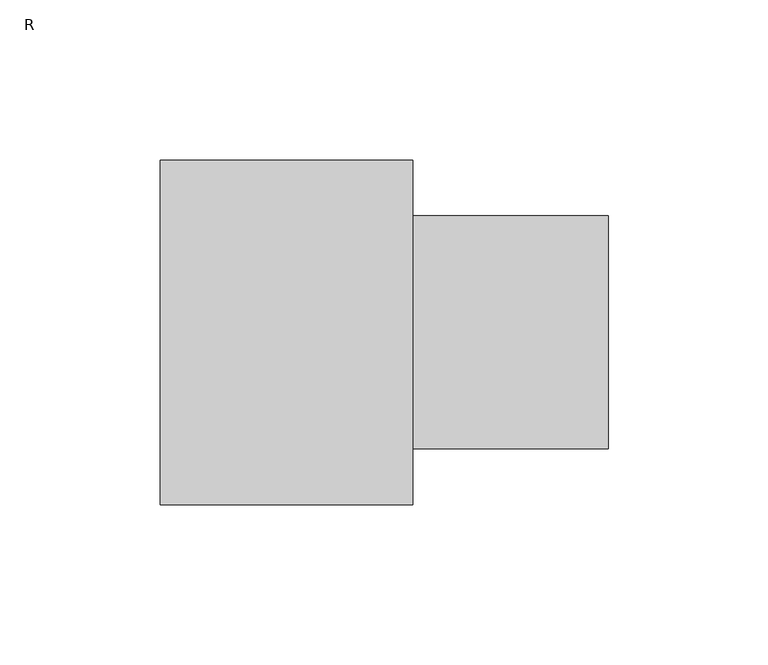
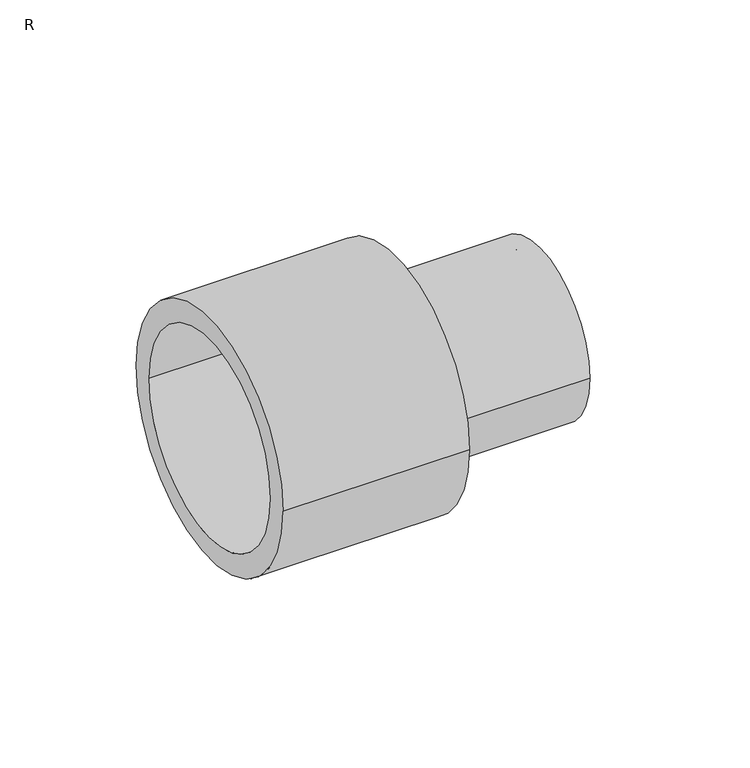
"""IFC4 building model written with IfcOpenShell, lengths in millimetres: pipe fitting geometry, FUSAPEX reducer for T-Piece : R."""

from ifc_helpers import new_model, si_unit, frame, origin, place, context, project, spatial, polyline, circle_curve, source, transform, mapped, element, save
from ifc_brep_helpers import plane_surface, cylinder_surface, revolved_surface, advanced_brep


def r_cca8e6ca(model_context):
    return source(origin(), model_context, "Body", "AdvancedBrep", [
        advanced_brep(
        [(-79.0, 44.4, 0.0), (-79.0, -44.4, 0.0), (-6.0, -44.4, 0.0), (-6.0, 44.4, 0.0), (0.0, 53.85, 0.0), (0.0, -53.85, 0.0), (-79.0, -53.85, 0.0), (-79.0, 53.85, 0.0), (61.0, 36.4, 0.0), (61.0, -36.4, 0.0), (0.0, -36.4, 0.0), (0.0, 36.4, 0.0), (-6.0, 30.25, 0.0), (-6.0, -30.25, 0.0), (61.0, -30.25, 0.0), (61.0, 30.25, 0.0)],
        [
            (0, 1, circle_curve(frame((-79.0, 0.0, 0.0), z_axis=(-1.0, 0.0, 0.0), x_axis=(0.0, -1.0, 0.0)), 44.4)),
            (1, 2),
            (2, 3, circle_curve(frame((-6.0, 0.0, 0.0), z_axis=(1.0, 0.0, 0.0), x_axis=(0.0, -1.0, 0.0)), 44.4)),
            (3, 0),
            (4, 5, circle_curve(frame((0.0, 0.0, 0.0), z_axis=(-1.0, 0.0, 0.0), x_axis=(0.0, -1.0, 0.0)), 53.85)),
            (5, 6),
            (6, 7, circle_curve(frame((-79.0, 0.0, 0.0), z_axis=(1.0, 0.0, 0.0), x_axis=(0.0, -1.0, 0.0)), 53.85)),
            (7, 4),
            (8, 9, circle_curve(frame((61.0, 0.0, 0.0), z_axis=(-1.0, 0.0, 0.0), x_axis=(0.0, -1.0, 0.0)), 36.4)),
            (9, 10),
            (10, 11, circle_curve(frame((0.0, 0.0, 0.0), z_axis=(1.0, 0.0, 0.0), x_axis=(0.0, -1.0, 0.0)), 36.4)),
            (11, 8),
            (12, 13, circle_curve(frame((-6.0, 0.0, 0.0), z_axis=(-1.0, 0.0, 0.0), x_axis=(0.0, -1.0, 0.0)), 30.25)),
            (13, 14),
            (14, 15, circle_curve(frame((61.0, 0.0, 0.0), z_axis=(1.0, 0.0, 0.0), x_axis=(0.0, -1.0, 0.0)), 30.25)),
            (15, 12),
            (1, 0, circle_curve(frame((-79.0, 0.0, 0.0), z_axis=(-1.0, 0.0, 0.0), x_axis=(0.0, 1.0, 0.0)), 44.4)),
            (3, 2, circle_curve(frame((-6.0, 0.0, 0.0), z_axis=(1.0, 0.0, 0.0), x_axis=(0.0, 1.0, 0.0)), 44.4)),
            (6, 7, circle_curve(frame((-79.0, 0.0, 0.0), z_axis=(-1.0, 0.0, 0.0), x_axis=(0.0, 1.0, 0.0)), 53.85)),
            (5, 4, circle_curve(frame((0.0, 0.0, 0.0), z_axis=(-1.0, 0.0, 0.0), x_axis=(0.0, 1.0, 0.0)), 53.85)),
            (10, 11, circle_curve(frame((0.0, 0.0, 0.0), z_axis=(-1.0, 0.0, 0.0), x_axis=(0.0, 1.0, 0.0)), 36.4)),
            (9, 8, circle_curve(frame((61.0, 0.0, 0.0), z_axis=(-1.0, 0.0, 0.0), x_axis=(0.0, 1.0, 0.0)), 36.4)),
            (14, 15, circle_curve(frame((61.0, 0.0, 0.0), z_axis=(-1.0, 0.0, 0.0), x_axis=(0.0, 1.0, 0.0)), 30.25)),
            (13, 12, circle_curve(frame((-6.0, 0.0, 0.0), z_axis=(-1.0, 0.0, 0.0), x_axis=(0.0, 1.0, 0.0)), 30.25)),
        ],
        [
            revolved_surface(polyline([(-6.0, -44.4, 0.0), (-79.0, -44.4, 0.0)]), (0.0, 0.0, 0.0), (1.0, 0.0, 0.0)),
            cylinder_surface(frame((0.0, 0.0, 0.0), z_axis=(1.0, 0.0, 0.0), x_axis=(0.0, -1.0, 0.0)), 53.85),
            cylinder_surface(frame((0.0, 0.0, 0.0), z_axis=(1.0, 0.0, 0.0), x_axis=(0.0, -1.0, 0.0)), 36.4),
            revolved_surface(polyline([(61.0, -30.25, 0.0), (-6.0, -30.25, 0.0)]), (0.0, 0.0, 0.0), (1.0, 0.0, 0.0)),
            revolved_surface(polyline([(-6.0, 44.4, 0.0), (-79.0, 44.4, 0.0)]), (0.0, 0.0, 0.0), (1.0, 0.0, 0.0)),
            plane_surface(frame((-79.0, 0.0, 0.0), z_axis=(-1.0, 0.0, 0.0), x_axis=(0.0, 1.0, 0.0))),
            cylinder_surface(frame((0.0, 0.0, 0.0), z_axis=(1.0, 0.0, 0.0), x_axis=(0.0, 1.0, 0.0)), 53.85),
            plane_surface(frame((0.0, 0.0, 0.0), z_axis=(1.0, 0.0, 0.0), x_axis=(0.0, 1.0, 0.0))),
            cylinder_surface(frame((0.0, 0.0, 0.0), z_axis=(1.0, 0.0, 0.0), x_axis=(0.0, 1.0, 0.0)), 36.4),
            plane_surface(frame((61.0, 0.0, 0.0), z_axis=(1.0, 0.0, 0.0), x_axis=(0.0, 1.0, 0.0))),
            revolved_surface(polyline([(61.0, 30.25, 0.0), (-6.0, 30.25, 0.0)]), (0.0, 0.0, 0.0), (1.0, 0.0, 0.0)),
            plane_surface(frame((-6.0, 0.0, 0.0), z_axis=(-1.0, 0.0, 0.0), x_axis=(0.0, 1.0, 0.0))),
        ],
        [
            (0, [[1, 2, 3, 4]]),
            (1, [[5, 6, 7, 8]]),
            (2, [[9, 10, 11, 12]]),
            (3, [[13, 14, 15, 16]]),
            (4, [[17, -4, 18, -2]]),
            (5, [[19, -7], [-17, -1]]),
            (6, [[20, -8, -19, -6]]),
            (7, [[-20, -5], [21, -11]]),
            (8, [[22, -12, -21, -10]]),
            (9, [[-22, -9], [23, -15]]),
            (10, [[24, -16, -23, -14]]),
            (11, [[-18, -3], [-24, -13]]),
        ],
    ),
    ])


if __name__ == "__main__":
    model = new_model("IFC4")
    model_context = context("Model", 3, world=origin())
    ifc_project = project(units=[si_unit("LENGTHUNIT", "METRE", prefix="MILLI")], contexts=[model_context])
    site = spatial("IfcSite", under=ifc_project)
    building = spatial("IfcBuilding", under=site)
    placement = place(None, origin())
    r_shape = r_cca8e6ca(model_context)
    element("IfcPipeFitting", 1, ObjectType="FUSAPEX reducer for T-Piece : R", at=placement, inside=building, context=model_context, shape_type="MappedRepresentation", body=[
        mapped(r_shape, transform((0.0, 0.0, 0.0), x_axis=(1.0, 0.0, 0.0), y_axis=(0.0, 1.0, 0.0), z_axis=(0.0, 0.0, 1.0))),
    ])
    save(model, "model.ifc")
